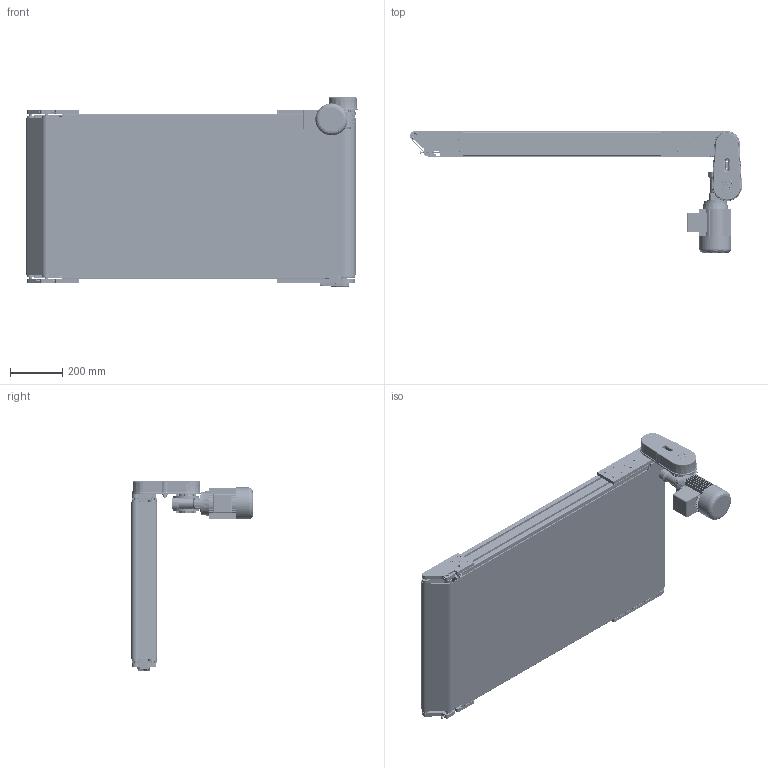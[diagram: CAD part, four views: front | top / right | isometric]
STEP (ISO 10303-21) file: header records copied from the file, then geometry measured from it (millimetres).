
FILE_DESCRIPTION (( 'STEP AP203' ), '1' );
FILE_NAME ('NASTRO_RETTILINEO_TAPPETO.step', '2026-05-29T12:15:12', ( 'Utente Windows' ), ( '' ), 'SwSTEP 2.0', 'SolidWorks 2024', '' );
FILE_SCHEMA (( 'CONFIG_CONTROL_DESIGN' ));
Length unit declared in the file: millimetre
Products named in the file (61): 084.302.000 DADI ALUSIC 13x13_084.302.004; CUSCINETTI A SFERE_608-2RS; 12UNI7435; VITI TSEI UNI 5933_M8x30 UNI 5933; TELAIO_95_STANDARD_Default<A macchina>; 084.802.036; 084.802.071; 084.821.002; RULLO_95_PENNA; 084.302.060; CHIAVETTE_A 8x7x25 UNI 6604-69; VITI TCEI UNI 5931_M4x25 UNI 5931; 084.802.019_084.802.019; VITE_RONDELLA_M8X20; BLOCCO_PERNO_95_RINVIATO; 084.810.008; 084.302.016; BLOCCO_TRAINO_95_STANDARD_CON TENDINASTRO E CARTER; 084.303.001; 084.813.002; 456.015.101_456.015.101 SX; 084.302.000 DADI ALUSIC 13x13-1_084.302.007; 084.301.000 VITI ALUSIC_084.301.003; DADI ESAGONALI AUTOBLOCCANTI UNI 7473_M08 UNI 7473; VITI TE UNI 5739_M6x12 UNI 5739; VITI TE UNI 5739_M6x70 UNI 5739; VITI TSEI UNI 5933_M5x12 UNI 5933; PERNO_SUP_95_PENNA; RONDELLE FASCIA LARGA UNI 6593_5.4x20 UNI 6593; VITI TSEI UNI 5933_M4x12 UNI 5933; PERNO_INF_95_PENNA; LAMIERA_1_PENNA; RONDELLE FASCIA LARGA UNI 6593_8.4x24 UNI 6593; BLOCCO_TRAINO_95_RINVIATO_CINGHIA_44_DX; VITI TE UNI 5739_M8x20 UNI 5739; 084.802.068; NASTRO_RETTILINEO_TAPPETO; 084.808.002_084.808.002; CHIAVETTE_A 6x6x50 UNI 6604-69; VITI TE UNI 5739_M5x10 UNI 5739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
Assembly tree (128 placements, depth 4):
  NASTRO_RETTILINEO_TAPPETO
    TAPPETO_STANDARD_1PENNA
    TELAIO_95_STANDARD_Default<A macchina>
    LAMIERA_1_PENNA
    RULLO_95_Default<A macchina>
    BLOCCO_PERNO_95_RINVIATO
      084.810.003
      084.813.002
      CHIAVETTE_A 8x7x25 UNI 6604-69
      CHIAVETTE_A 8x7x20 UNI 6604-69
      30UNI7435
    BLOCCO_TRAINO_95_RINVIATO_CINGHIA_44_DX
      084.808.003_084.808.003
      084.802.034_084.802.034
      084.821.002  x2
      084.809.001
      084.813.004
      084.810.006
        084.810.008
        CUSCINETTI A SFERE_608-2RS  x3
        08UNI7435
        RONDELLE FASCIA LARGA UNI 6593_8.4x24 UNI 6593
        DADI ESAGONALI AUTOBLOCCANTI UNI 7473_M08 UNI 7473
      084.821.003
      084.302.000 DADI ALUSIC 13x13_084.302.004  x6
      084.301.000 VITI ALUSIC_084.301.003  x6
      CHIAVETTE_A 6x6x50 UNI 6604-69
      CHIAVETTE_A 8x7x25 UNI 6604-69  x2
      RONDELLE FASCIA LARGA UNI 6593_5.4x20 UNI 6593
      VITI TE UNI 5739_M5x10 UNI 5739
      VITI TE UNI 5739_M8x20 UNI 5739  x4
      VITI TE UNI 5739_M6x12 UNI 5739  x4
      084.802.067_Default<A macchina>
      VITI TCEI UNI 5931_M4x25 UNI 5931  x2
      084.832.001
    BLOCCO_PERNO_95_RINVIO
      084.812.003
      084.810.003
      30UNI7435
    BLOCCO_TRAINO_95_STANDARD_CON TENDINASTRO E CARTER
      084.808.002_084.808.002
      084.302.060  x2
      084.802.019_084.802.019
      084.301.000 VITI ALUSIC_084.301.003  x6
      VITI TCEI UNI 5931_M4x25 UNI 5931  x2
      084.802.071
      084.802.068
      VITI TSEI UNI 5933_M4x12 UNI 5933  x2
    RULLO_95_PENNA  x2
    BLOCCO_RINVIO_95_PENNA_SX
      456.015.101_456.015.101 SX
      084.802.036  x2
      084.301.000 VITI ALUSIC_084.301.003  x4
      VITI TE UNI 5739_M6x70 UNI 5739
      VITI TSEI UNI 5933_M8x30 UNI 5933
      084.302.016  x2
      12UNI7435  x2
    BLOCCO_RINVIO_95_PENNA_DX
      456.015.101_456.015.101 DX
      084.802.036  x2
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Bounding box: 1275.75 x 468 x 728.5 mm (x, y, z)
Volume: 14531691.1 mm3; surface area: 9660324.1 mm2
Topology: 151 solids, 162 shells, 5967 faces, 15189 edges, 9691 vertices
Faces by surface type: plane 2810, cylinder 1854, cone 509, torus 388, bspline 367, sphere 39
Entity records: 160622 total; most frequent: CARTESIAN_POINT 46774, ORIENTED_EDGE 22684, DIRECTION 21439, EDGE_CURVE 11342, AXIS2_PLACEMENT_3D 7643, VERTEX_POINT 7270, LINE 6153, VECTOR 6153
